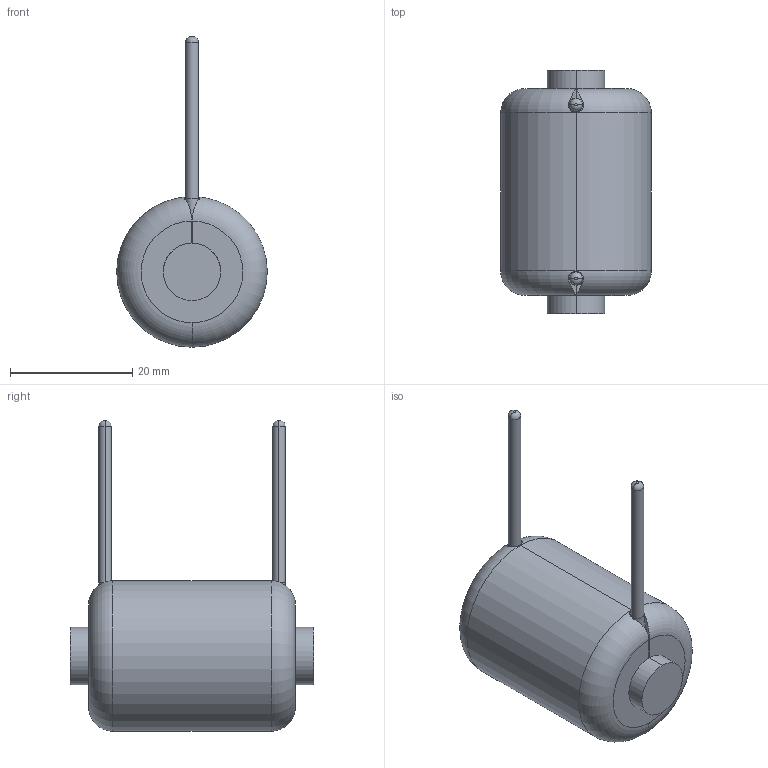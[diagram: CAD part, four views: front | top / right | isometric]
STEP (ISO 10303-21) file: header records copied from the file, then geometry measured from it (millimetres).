
FILE_DESCRIPTION (( 'STEP AP203' ), '1' );
FILE_NAME ('J-5524.STEP', '2020-09-21T14:13:25', ( 'Windows User' ), ( '' ), 'SwSTEP 2.0', 'SolidWorks 2015', '' );
FILE_SCHEMA (( 'CONFIG_CONTROL_DESIGN' ));
Length unit declared in the file: inch
Products named in the file (4): J-5524; J-5524 - COIL; J-5524 - TUBING; J-5524 - CORE
Assembly tree (3 placements, depth 2):
  J-5524
    J-5524 - CORE
    J-5524 - COIL
    J-5524 - TUBING
Bounding box: 24.64 x 39.92 x 50.8 mm (x, y, z)
Volume: 12579.6 mm3; surface area: 19159.2 mm2
Topology: 7 solids, 7 shells, 70 faces, 158 edges, 100 vertices
Faces by surface type: cylinder 20, plane 20, bspline 18, torus 12
Entity records: 15093 total; most frequent: CARTESIAN_POINT 13285, ORIENTED_EDGE 316, DIRECTION 266, EDGE_CURVE 158, AXIS2_PLACEMENT_3D 119, VERTEX_POINT 100, EDGE_LOOP 74, FACE_OUTER_BOUND 70
